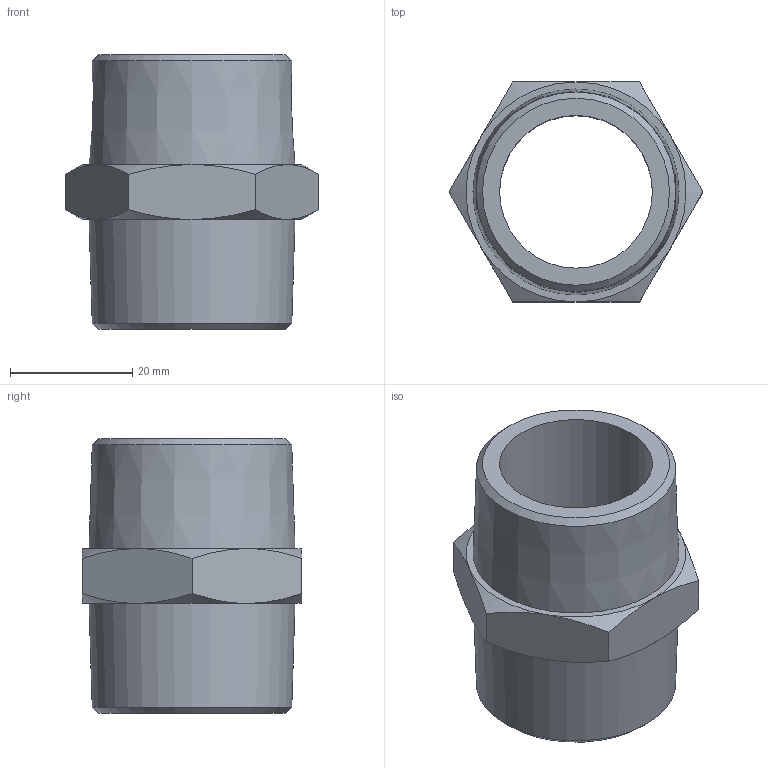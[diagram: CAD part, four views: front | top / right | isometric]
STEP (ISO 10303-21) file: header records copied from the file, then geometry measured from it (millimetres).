
FILE_DESCRIPTION((''),'2;1');
FILE_NAME('G:\Nirosan-Schmiedefeld\Technics\CAD\001 Serie 9.000\Kaufteile\DGN\692801(1).stp','2018-10-16T10:55:05',('herberg'),(''),'Autodesk Inventor 2009','Autodesk Inventor 2009','');
FILE_SCHEMA(('AUTOMOTIVE_DESIGN { 1 0 10303 214 1 1 1 1 }'));
Length unit declared in the file: millimetre
Products named in the file (1): 692801(1)
Bounding box: 41.57 x 36 x 45 mm (x, y, z)
Volume: 18906.9 mm3; surface area: 9330.1 mm2
Topology: 1 solids, 1 shells, 27 faces, 56 edges, 33 vertices
Faces by surface type: cone 9, plane 9, bspline 9
Entity records: 782 total; most frequent: CARTESIAN_POINT 297, ORIENTED_EDGE 100, DIRECTION 84, EDGE_CURVE 50, AXIS2_PLACEMENT_3D 39, EDGE_LOOP 36, VERTEX_POINT 32, FACE_OUTER_BOUND 27
